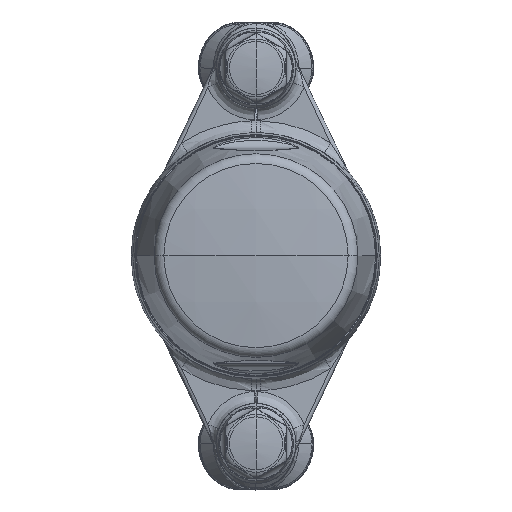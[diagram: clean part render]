
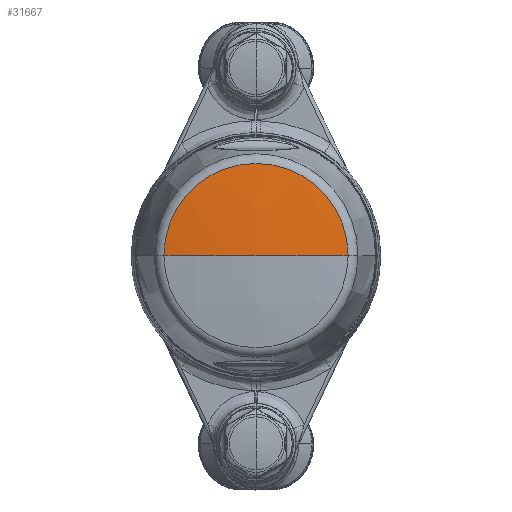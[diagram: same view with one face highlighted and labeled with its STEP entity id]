
A CAD part, top view. The second image highlights one B-rep face of the part: STEP entity #31667.
In plain terms, the highlighted spherical face has radius 200 mm.
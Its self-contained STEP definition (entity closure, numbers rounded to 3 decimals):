
#860 = CARTESIAN_POINT ( 'NONE',  ( 0., 0., -158.249 ) ) ;
#1548 = VERTEX_POINT ( 'NONE', #25511 ) ;
#1789 = AXIS2_PLACEMENT_3D ( 'NONE', #21108, #24748, #33531 ) ;
#3428 = EDGE_CURVE ( 'NONE', #1548, #45588, #49832, .T. ) ;
#3685 = CIRCLE ( 'NONE', #31776, 200. ) ;
#8517 = VERTEX_POINT ( 'NONE', #19242 ) ;
#12911 = CIRCLE ( 'NONE', #38535, 24.283 ) ;
#16667 = DIRECTION ( 'NONE',  ( -1., 0., 0. ) ) ;
#17135 = EDGE_CURVE ( 'NONE', #8517, #45588, #12911, .T. ) ;
#17301 = ORIENTED_EDGE ( 'NONE', *, *, #3428, .F. ) ;
#17832 = CARTESIAN_POINT ( 'NONE',  ( -24.283, 0., 40.272 ) ) ;
#19242 = CARTESIAN_POINT ( 'NONE',  ( 24.283, 0., 40.272 ) ) ;
#21108 = CARTESIAN_POINT ( 'NONE',  ( 0., 0., -158.249 ) ) ;
#24748 = DIRECTION ( 'NONE',  ( 0., -1., 0. ) ) ;
#25511 = CARTESIAN_POINT ( 'NONE',  ( 0., 0., 41.751 ) ) ;
#25869 = ORIENTED_EDGE ( 'NONE', *, *, #43743, .T. ) ;
#31657 = DIRECTION ( 'NONE',  ( 0., -1., 0. ) ) ;
#31667 = ADVANCED_FACE ( 'NONE', ( #45215 ), #44186, .T. ) ;
#31742 = EDGE_LOOP ( 'NONE', ( #17301, #25869, #40625 ) ) ;
#31776 = AXIS2_PLACEMENT_3D ( 'NONE', #860, #43873, #16667 ) ;
#33531 = DIRECTION ( 'NONE',  ( 1., 0., 0. ) ) ;
#33878 = DIRECTION ( 'NONE',  ( -1., 0., 0. ) ) ;
#34536 = DIRECTION ( 'NONE',  ( 1., 0., 0. ) ) ;
#37382 = AXIS2_PLACEMENT_3D ( 'NONE', #42838, #31657, #34536 ) ;
#38535 = AXIS2_PLACEMENT_3D ( 'NONE', #41171, #45038, #33878 ) ;
#40625 = ORIENTED_EDGE ( 'NONE', *, *, #17135, .T. ) ;
#41171 = CARTESIAN_POINT ( 'NONE',  ( 0., 0., 40.272 ) ) ;
#42838 = CARTESIAN_POINT ( 'NONE',  ( 0., 0., -158.249 ) ) ;
#43743 = EDGE_CURVE ( 'NONE', #1548, #8517, #3685, .T. ) ;
#43873 = DIRECTION ( 'NONE',  ( 0., 1., 0. ) ) ;
#44186 = SPHERICAL_SURFACE ( 'NONE', #1789, 200. ) ;
#45038 = DIRECTION ( 'NONE',  ( 0., 0., 1. ) ) ;
#45215 = FACE_OUTER_BOUND ( 'NONE', #31742, .T. ) ;
#45588 = VERTEX_POINT ( 'NONE', #17832 ) ;
#49832 = CIRCLE ( 'NONE', #37382, 200. ) ;
